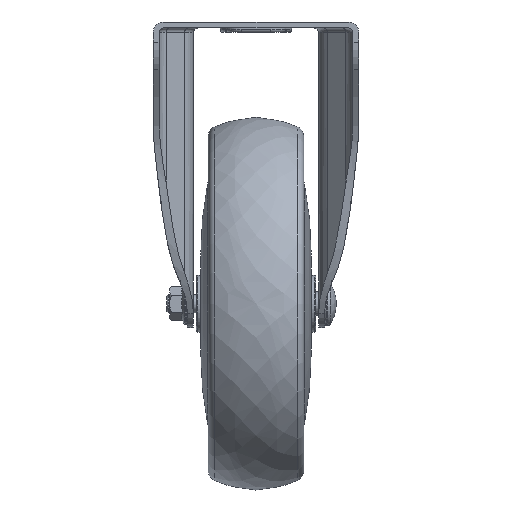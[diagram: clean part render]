
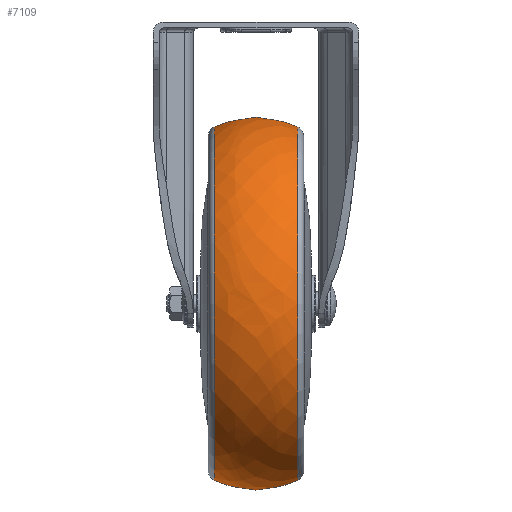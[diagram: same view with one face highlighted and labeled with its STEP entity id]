
A CAD part, left-side view. The second image highlights one B-rep face of the part: STEP entity #7109.
In plain terms, the highlighted free-form (B-spline) face has degree [2, 2] with [9, 9] control points.
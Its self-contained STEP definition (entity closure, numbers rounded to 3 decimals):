
#6983=CARTESIAN_POINT('',(59.258,-14.031,-43.25));
#6984=VERTEX_POINT('',#6983);
#6985=CARTESIAN_POINT('',(0.,-14.031,-43.25));
#6986=DIRECTION('',(0.0,-1.0,0.0));
#6987=DIRECTION('',(1.0,0.0,0.0));
#6988=AXIS2_PLACEMENT_3D('',#6985,#6986,#6987);
#6989=CIRCLE('',#6988,59.258);
#6990=EDGE_CURVE('',#6984,#6984,#6989,.T.);
#7006=CARTESIAN_POINT('',(0.,-9.678,-43.25));
#7007=CARTESIAN_POINT('',(0.,-35.817,-51.548));
#7008=CARTESIAN_POINT('',(0.,-31.618,-78.649));
#7009=CARTESIAN_POINT('',(0.,-27.42,-105.75));
#7010=CARTESIAN_POINT('',(0.,0.004,-105.75));
#7011=CARTESIAN_POINT('',(0.,27.429,-105.75));
#7012=CARTESIAN_POINT('',(0.,31.627,-78.649));
#7013=CARTESIAN_POINT('',(0.,35.826,-51.548));
#7014=CARTESIAN_POINT('',(0.,9.687,-43.25));
#7015=CARTESIAN_POINT('',(0.,-9.678,-43.25));
#7016=CARTESIAN_POINT('',(8.298,-35.817,-51.548));
#7017=CARTESIAN_POINT('',(35.399,-31.618,-78.649));
#7018=CARTESIAN_POINT('',(62.5,-27.42,-105.75));
#7019=CARTESIAN_POINT('',(62.5,0.004,-105.75));
#7020=CARTESIAN_POINT('',(62.5,27.429,-105.75));
#7021=CARTESIAN_POINT('',(35.399,31.627,-78.649));
#7022=CARTESIAN_POINT('',(8.298,35.826,-51.548));
#7023=CARTESIAN_POINT('',(0.,9.687,-43.25));
#7024=CARTESIAN_POINT('',(0.,-9.678,-43.25));
#7025=CARTESIAN_POINT('',(8.298,-35.817,-43.25));
#7026=CARTESIAN_POINT('',(35.399,-31.618,-43.25));
#7027=CARTESIAN_POINT('',(62.5,-27.42,-43.25));
#7028=CARTESIAN_POINT('',(62.5,0.004,-43.25));
#7029=CARTESIAN_POINT('',(62.5,27.429,-43.25));
#7030=CARTESIAN_POINT('',(35.399,31.627,-43.25));
#7031=CARTESIAN_POINT('',(8.298,35.826,-43.25));
#7032=CARTESIAN_POINT('',(0.,9.687,-43.25));
#7033=CARTESIAN_POINT('',(0.,-9.678,-43.25));
#7034=CARTESIAN_POINT('',(8.298,-35.817,-34.952));
#7035=CARTESIAN_POINT('',(35.399,-31.618,-7.851));
#7036=CARTESIAN_POINT('',(62.5,-27.42,19.25));
#7037=CARTESIAN_POINT('',(62.5,0.004,19.25));
#7038=CARTESIAN_POINT('',(62.5,27.429,19.25));
#7039=CARTESIAN_POINT('',(35.399,31.627,-7.851));
#7040=CARTESIAN_POINT('',(8.298,35.826,-34.952));
#7041=CARTESIAN_POINT('',(0.,9.687,-43.25));
#7042=CARTESIAN_POINT('',(0.,-9.678,-43.25));
#7043=CARTESIAN_POINT('',(0.,-35.817,-34.952));
#7044=CARTESIAN_POINT('',(0.,-31.618,-7.851));
#7045=CARTESIAN_POINT('',(0.,-27.42,19.25));
#7046=CARTESIAN_POINT('',(0.,0.004,19.25));
#7047=CARTESIAN_POINT('',(0.,27.429,19.25));
#7048=CARTESIAN_POINT('',(0.,31.627,-7.851));
#7049=CARTESIAN_POINT('',(0.,35.826,-34.952));
#7050=CARTESIAN_POINT('',(0.,9.687,-43.25));
#7051=CARTESIAN_POINT('',(0.,-9.678,-43.25));
#7052=CARTESIAN_POINT('',(-8.298,-35.817,-34.952));
#7053=CARTESIAN_POINT('',(-35.399,-31.618,-7.851));
#7054=CARTESIAN_POINT('',(-62.5,-27.42,19.25));
#7055=CARTESIAN_POINT('',(-62.5,0.004,19.25));
#7056=CARTESIAN_POINT('',(-62.5,27.429,19.25));
#7057=CARTESIAN_POINT('',(-35.399,31.627,-7.851));
#7058=CARTESIAN_POINT('',(-8.298,35.826,-34.952));
#7059=CARTESIAN_POINT('',(0.,9.687,-43.25));
#7060=CARTESIAN_POINT('',(0.,-9.678,-43.25));
#7061=CARTESIAN_POINT('',(-8.298,-35.817,-43.25));
#7062=CARTESIAN_POINT('',(-35.399,-31.618,-43.25));
#7063=CARTESIAN_POINT('',(-62.5,-27.42,-43.25));
#7064=CARTESIAN_POINT('',(-62.5,0.004,-43.25));
#7065=CARTESIAN_POINT('',(-62.5,27.429,-43.25));
#7066=CARTESIAN_POINT('',(-35.399,31.627,-43.25));
#7067=CARTESIAN_POINT('',(-8.298,35.826,-43.25));
#7068=CARTESIAN_POINT('',(0.,9.687,-43.25));
#7069=CARTESIAN_POINT('',(0.,-9.678,-43.25));
#7070=CARTESIAN_POINT('',(-8.298,-35.817,-51.548));
#7071=CARTESIAN_POINT('',(-35.399,-31.618,-78.649));
#7072=CARTESIAN_POINT('',(-62.5,-27.42,-105.75));
#7073=CARTESIAN_POINT('',(-62.5,0.004,-105.75));
#7074=CARTESIAN_POINT('',(-62.5,27.429,-105.75));
#7075=CARTESIAN_POINT('',(-35.399,31.627,-78.649));
#7076=CARTESIAN_POINT('',(-8.298,35.826,-51.548));
#7077=CARTESIAN_POINT('',(0.,9.687,-43.25));
#7078=CARTESIAN_POINT('',(0.,-9.678,-43.25));
#7079=CARTESIAN_POINT('',(0.,-35.817,-51.548));
#7080=CARTESIAN_POINT('',(0.,-31.618,-78.649));
#7081=CARTESIAN_POINT('',(0.,-27.42,-105.75));
#7082=CARTESIAN_POINT('',(0.,0.004,-105.75));
#7083=CARTESIAN_POINT('',(0.,27.429,-105.75));
#7084=CARTESIAN_POINT('',(0.,31.627,-78.649));
#7085=CARTESIAN_POINT('',(0.,35.826,-51.548));
#7086=CARTESIAN_POINT('',(0.,9.687,-43.25));
#7094=(BOUNDED_SURFACE()B_SPLINE_SURFACE(2,2,((#7006,#7015,#7024,#7033,#7042,#7051,#7060,#7069,#7078),(#7007,#7016,#7025,#7034,#7043,#7052,#7061,#7070,#7079),(#7008,#7017,#7026,#7035,#7044,#7053,#7062,#7071,#7080),(#7009,#7018,#7027,#7036,#7045,#7054,#7063,#7072,#7081),(#7010,#7019,#7028,#7037,#7046,#7055,#7064,#7073,#7082),(#7011,#7020,#7029,#7038,#7047,#7056,#7065,#7074,#7083),(#7012,#7021,#7030,#7039,#7048,#7057,#7066,#7075,#7084),(#7013,#7022,#7031,#7040,#7049,#7058,#7067,#7076,#7085),(#7014,#7023,#7032,#7041,#7050,#7059,#7068,#7077,#7086)),.UNSPECIFIED.,.F.,.T.,.U.)B_SPLINE_SURFACE_WITH_KNOTS((3,2,2,2,3),(3,2,2,2,3),(-2.834,-1.417,0.0,1.417,2.834),(0.0,1.571,3.142,4.712,6.283),.UNSPECIFIED.)GEOMETRIC_REPRESENTATION_ITEM()RATIONAL_B_SPLINE_SURFACE(((1.0,0.707,1.0,0.707,1.0,0.707,1.0,0.707,1.0),(0.759,0.537,0.759,0.537,0.759,0.537,0.759,0.537,0.759),(1.0,0.707,1.0,0.707,1.0,0.707,1.0,0.707,1.0),(0.759,0.537,0.759,0.537,0.759,0.537,0.759,0.537,0.759),(1.0,0.707,1.0,0.707,1.0,0.707,1.0,0.707,1.0),(0.759,0.537,0.759,0.537,0.759,0.537,0.759,0.537,0.759),(1.0,0.707,1.0,0.707,1.0,0.707,1.0,0.707,1.0),(0.759,0.537,0.759,0.537,0.759,0.537,0.759,0.537,0.759),(1.0,0.707,1.0,0.707,1.0,0.707,1.0,0.707,1.0)))REPRESENTATION_ITEM('')SURFACE());
#7095=CARTESIAN_POINT('',(59.258,14.04,-43.25));
#7096=VERTEX_POINT('',#7095);
#7097=CARTESIAN_POINT('',(0.,14.04,-43.25));
#7098=DIRECTION('',(0.0,-1.0,0.0));
#7099=DIRECTION('',(1.0,0.0,0.0));
#7100=AXIS2_PLACEMENT_3D('',#7097,#7098,#7099);
#7101=CIRCLE('',#7100,59.258);
#7102=EDGE_CURVE('',#7096,#7096,#7101,.T.);
#7103=ORIENTED_EDGE('',*,*,#7102,.T.);
#7104=EDGE_LOOP('',(#7103));
#7105=FACE_OUTER_BOUND('',#7104,.T.);
#7106=ORIENTED_EDGE('',*,*,#6990,.F.);
#7107=EDGE_LOOP('',(#7106));
#7108=FACE_BOUND('',#7107,.T.);
#7109=ADVANCED_FACE('',(#7105,#7108),#7094,.T.);
